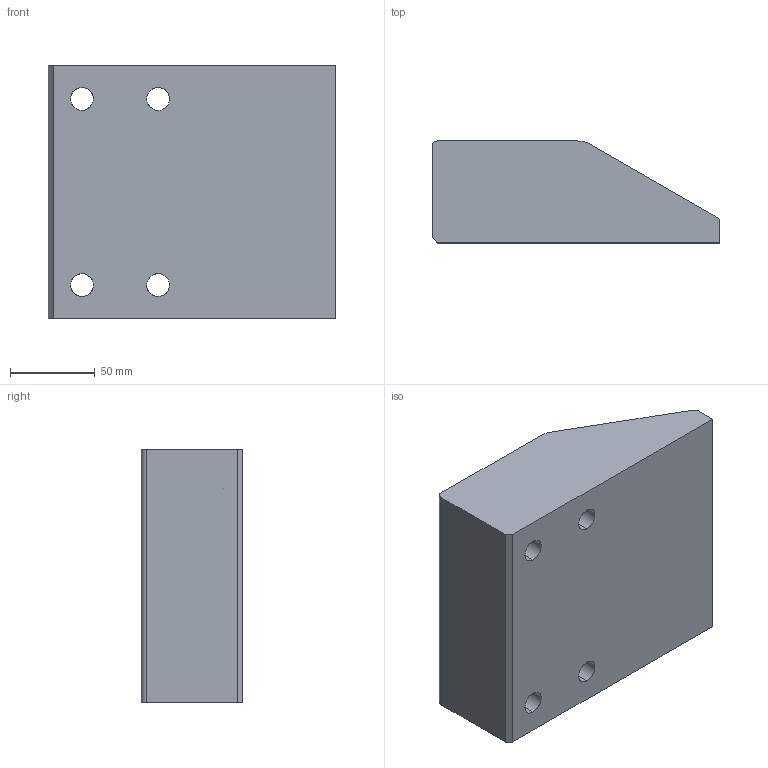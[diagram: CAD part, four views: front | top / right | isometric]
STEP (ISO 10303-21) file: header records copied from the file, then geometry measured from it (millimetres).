
FILE_DESCRIPTION(('CATIA V5 STEP Exchange'),'2;1');
FILE_NAME('C:\Users\Utente\Desktop\3D files A934\A934-15017060.stp','2020-04-17T08:26:45+00:00',('none'),('none'),'CATIA Version 5 Release 20 GA (IN-10)','CATIA V5 STEP AP203','none');
FILE_SCHEMA(('CONFIG_CONTROL_DESIGN'));
Length unit declared in the file: millimetre
Products named in the file (1): Noname
Bounding box: 170 x 60 x 150 mm (x, y, z)
Surface area: 92485.5 mm2 (no closed solid volume)
Topology: 0 solids, 27 shells, 39 faces, 158 edges, 134 vertices
Faces by surface type: cylinder 19, extrusion 12, revolution 8
Entity records: 2132 total; most frequent: CARTESIAN_POINT 870, ORIENTED_EDGE 182, DIRECTION 174, EDGE_CURVE 158, VERTEX_POINT 134, AXIS2_PLACEMENT_3D 82, VECTOR 66, B_SPLINE_CURVE_WITH_KNOTS 62
